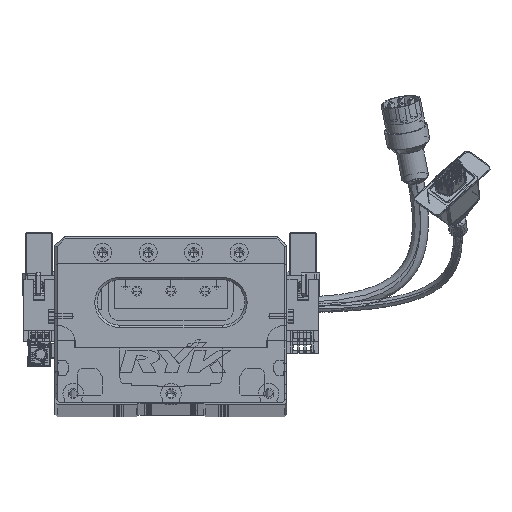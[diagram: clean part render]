
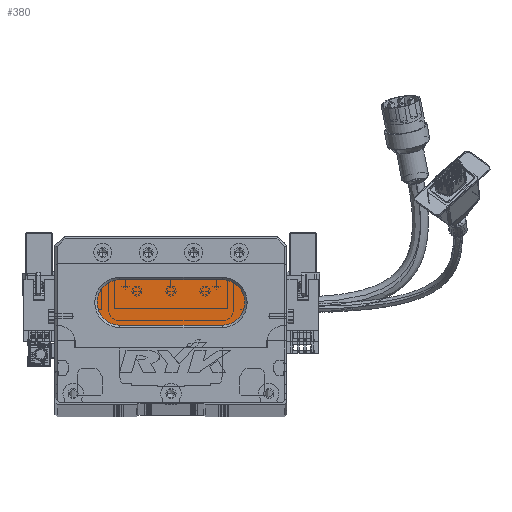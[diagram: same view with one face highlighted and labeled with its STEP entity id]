
A CAD part, top view. The second image highlights one B-rep face of the part: STEP entity #380.
In plain terms, the highlighted planar face has unit normal (0, 0, 1) as drawn and (0, 0, -1) by its records, which use the part's own axes.
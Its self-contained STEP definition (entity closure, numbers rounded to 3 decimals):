
#78 = AXIS2_PLACEMENT_3D ( 'NONE', #66042, #86525, #31128 ) ;
#380 = ADVANCED_FACE ( 'NONE', ( #72221 ), #60628, .T. ) ;
#2306 = CARTESIAN_POINT ( 'NONE',  ( 28.5, 34., 13. ) ) ;
#5968 = CARTESIAN_POINT ( 'NONE',  ( 73.5, 34., 13. ) ) ;
#10231 = CIRCLE ( 'NONE', #82321, 10. ) ;
#10402 = ORIENTED_EDGE ( 'NONE', *, *, #29147, .T. ) ;
#12315 = AXIS2_PLACEMENT_3D ( 'NONE', #74465, #38623, #39254 ) ;
#15433 = CARTESIAN_POINT ( 'NONE',  ( 73.5, 54., 13. ) ) ;
#15773 = DIRECTION ( 'NONE',  ( -1., 0., 0. ) ) ;
#19325 = ORIENTED_EDGE ( 'NONE', *, *, #20712, .T. ) ;
#20417 = CARTESIAN_POINT ( 'NONE',  ( 28.5, 54., 13. ) ) ;
#20712 = EDGE_CURVE ( 'NONE', #25815, #57670, #25816, .T. ) ;
#24040 = CARTESIAN_POINT ( 'NONE',  ( 28.5, 44., 13. ) ) ;
#25815 = VERTEX_POINT ( 'NONE', #20417 ) ;
#25816 = LINE ( 'NONE', #15433, #81693 ) ;
#28615 = DIRECTION ( 'NONE',  ( 1., 0., 0. ) ) ;
#29147 = EDGE_CURVE ( 'NONE', #88541, #37664, #48587, .T. ) ;
#31128 = DIRECTION ( 'NONE',  ( -1., 0., 0. ) ) ;
#36950 = DIRECTION ( 'NONE',  ( 0., 0., -1. ) ) ;
#37099 = CARTESIAN_POINT ( 'NONE',  ( 73.5, 34., 13. ) ) ;
#37664 = VERTEX_POINT ( 'NONE', #86931 ) ;
#38623 = DIRECTION ( 'NONE',  ( 0., 0., -1. ) ) ;
#39181 = EDGE_CURVE ( 'NONE', #37664, #25815, #10231, .T. ) ;
#39254 = DIRECTION ( 'NONE',  ( -1., 0., 0. ) ) ;
#40515 = ORIENTED_EDGE ( 'NONE', *, *, #39181, .T. ) ;
#43014 = EDGE_CURVE ( 'NONE', #45039, #88541, #46915, .T. ) ;
#43831 = DIRECTION ( 'NONE',  ( -1., 0., 0. ) ) ;
#45039 = VERTEX_POINT ( 'NONE', #5968 ) ;
#46915 = LINE ( 'NONE', #37099, #81850 ) ;
#47705 = DIRECTION ( 'NONE',  ( -1., 0., 0. ) ) ;
#48587 = CIRCLE ( 'NONE', #78, 10. ) ;
#49668 = CARTESIAN_POINT ( 'NONE',  ( 73.5, 54., 13. ) ) ;
#55566 = ORIENTED_EDGE ( 'NONE', *, *, #43014, .T. ) ;
#57670 = VERTEX_POINT ( 'NONE', #49668 ) ;
#58427 = ORIENTED_EDGE ( 'NONE', *, *, #68226, .T. ) ;
#60628 = PLANE ( 'NONE',  #12315 ) ;
#65426 = CIRCLE ( 'NONE', #70908, 10. ) ;
#66042 = CARTESIAN_POINT ( 'NONE',  ( 28.5, 44., 13. ) ) ;
#68226 = EDGE_CURVE ( 'NONE', #57670, #45039, #65426, .T. ) ;
#70908 = AXIS2_PLACEMENT_3D ( 'NONE', #81465, #77507, #47705 ) ;
#72221 = FACE_OUTER_BOUND ( 'NONE', #82950, .T. ) ;
#74465 = CARTESIAN_POINT ( 'NONE',  ( 73.5, 44., 13. ) ) ;
#77507 = DIRECTION ( 'NONE',  ( 0., 0., -1. ) ) ;
#81465 = CARTESIAN_POINT ( 'NONE',  ( 73.5, 44., 13. ) ) ;
#81693 = VECTOR ( 'NONE', #28615, 1000. ) ;
#81850 = VECTOR ( 'NONE', #43831, 1000. ) ;
#82321 = AXIS2_PLACEMENT_3D ( 'NONE', #24040, #36950, #15773 ) ;
#82950 = EDGE_LOOP ( 'NONE', ( #58427, #55566, #10402, #40515, #19325 ) ) ;
#86525 = DIRECTION ( 'NONE',  ( 0., 0., -1. ) ) ;
#86931 = CARTESIAN_POINT ( 'NONE',  ( 18.5, 44., 13. ) ) ;
#88541 = VERTEX_POINT ( 'NONE', #2306 ) ;
